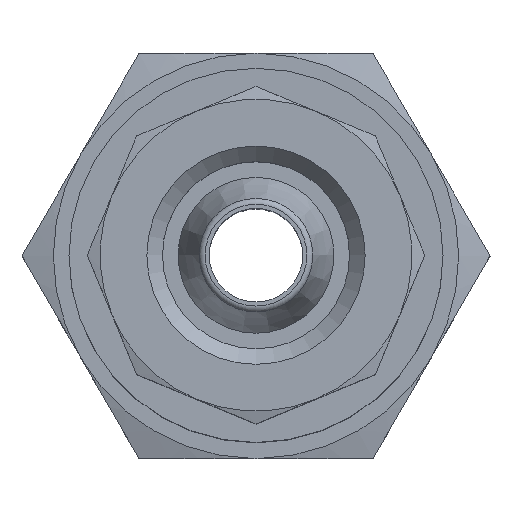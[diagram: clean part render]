
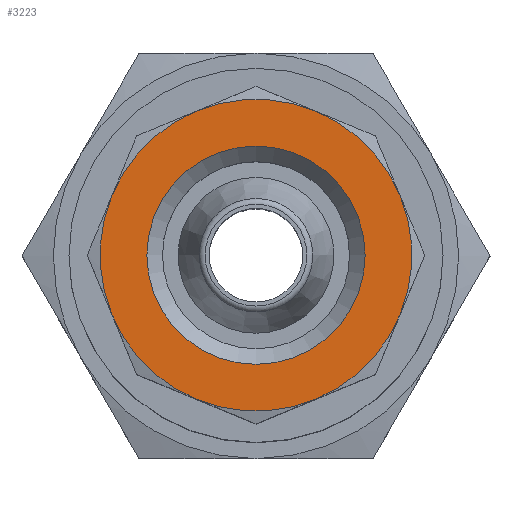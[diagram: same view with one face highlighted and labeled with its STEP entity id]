
A CAD part, top view. The second image highlights one B-rep face of the part: STEP entity #3223.
In plain terms, the highlighted planar face has unit normal (0, 0, 1) as drawn and (0, 1, 0) by its records, which use the part's own axes.
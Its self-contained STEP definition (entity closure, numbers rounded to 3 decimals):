
#1654=ORIENTED_EDGE('',*,*,#1995,.F.);
#1655=ORIENTED_EDGE('',*,*,#1996,.F.);
#1656=ORIENTED_EDGE('',*,*,#1997,.F.);
#1657=ORIENTED_EDGE('',*,*,#1998,.F.);
#1658=ORIENTED_EDGE('',*,*,#1999,.F.);
#1659=ORIENTED_EDGE('',*,*,#2000,.F.);
#1660=ORIENTED_EDGE('',*,*,#2001,.F.);
#1661=ORIENTED_EDGE('',*,*,#2002,.F.);
#1662=ORIENTED_EDGE('',*,*,#1994,.T.);
#1800=CIRCLE('',#3091,3.5);
#1801=CIRCLE('',#3093,5.);
#1802=CIRCLE('',#3094,5.);
#1803=CIRCLE('',#3095,5.);
#1804=CIRCLE('',#3096,5.);
#1805=CIRCLE('',#3097,5.);
#1806=CIRCLE('',#3098,5.);
#1807=CIRCLE('',#3099,5.);
#1808=CIRCLE('',#3100,5.);
#1880=VERTEX_POINT('',#2858);
#1881=VERTEX_POINT('',#2861);
#1882=VERTEX_POINT('',#2862);
#1883=VERTEX_POINT('',#2864);
#1884=VERTEX_POINT('',#2866);
#1885=VERTEX_POINT('',#2868);
#1886=VERTEX_POINT('',#2870);
#1887=VERTEX_POINT('',#2872);
#1888=VERTEX_POINT('',#2874);
#1994=EDGE_CURVE('',#1880,#1880,#1800,.T.);
#1995=EDGE_CURVE('',#1881,#1882,#1801,.T.);
#1996=EDGE_CURVE('',#1883,#1881,#1802,.T.);
#1997=EDGE_CURVE('',#1884,#1883,#1803,.T.);
#1998=EDGE_CURVE('',#1885,#1884,#1804,.T.);
#1999=EDGE_CURVE('',#1886,#1885,#1805,.T.);
#2000=EDGE_CURVE('',#1887,#1886,#1806,.T.);
#2001=EDGE_CURVE('',#1888,#1887,#1807,.T.);
#2002=EDGE_CURVE('',#1882,#1888,#1808,.T.);
#2120=EDGE_LOOP('',(#1654,#1655,#1656,#1657,#1658,#1659,#1660,#1661));
#2121=EDGE_LOOP('',(#1662));
#2230=FACE_BOUND('',#2120,.T.);
#2231=FACE_BOUND('',#2121,.T.);
#2526=DIRECTION('',(0.,-1.,0.));
#2527=DIRECTION('',(0.,0.,-3.5));
#2528=DIRECTION('',(0.,1.,0.));
#2529=DIRECTION('',(1.,0.,0.));
#2530=DIRECTION('',(0.,-1.,0.));
#2531=DIRECTION('',(0.,0.,5.));
#2532=DIRECTION('',(0.,-1.,0.));
#2533=DIRECTION('',(0.,0.,5.));
#2534=DIRECTION('',(0.,-1.,0.));
#2535=DIRECTION('',(0.,0.,5.));
#2536=DIRECTION('',(0.,-1.,0.));
#2537=DIRECTION('',(0.,0.,5.));
#2538=DIRECTION('',(0.,-1.,0.));
#2539=DIRECTION('',(0.,0.,5.));
#2540=DIRECTION('',(0.,-1.,0.));
#2541=DIRECTION('',(0.,0.,5.));
#2542=DIRECTION('',(0.,-1.,0.));
#2543=DIRECTION('',(0.,0.,5.));
#2544=DIRECTION('',(0.,-1.,0.));
#2545=DIRECTION('',(0.,0.,5.));
#2858=CARTESIAN_POINT('',(0.,11.,-3.5));
#2859=CARTESIAN_POINT('',(0.,11.,0.));
#2860=CARTESIAN_POINT('',(1.913,11.,4.619));
#2861=CARTESIAN_POINT('',(-4.619,11.,-1.913));
#2862=CARTESIAN_POINT('',(-1.913,11.,-4.619));
#2863=CARTESIAN_POINT('',(0.,11.,0.));
#2864=CARTESIAN_POINT('',(-4.619,11.,1.913));
#2865=CARTESIAN_POINT('',(0.,11.,0.));
#2866=CARTESIAN_POINT('',(-1.913,11.,4.619));
#2867=CARTESIAN_POINT('',(0.,11.,0.));
#2868=CARTESIAN_POINT('',(1.913,11.,4.619));
#2869=CARTESIAN_POINT('',(0.,11.,0.));
#2870=CARTESIAN_POINT('',(4.619,11.,1.913));
#2871=CARTESIAN_POINT('',(0.,11.,0.));
#2872=CARTESIAN_POINT('',(4.619,11.,-1.913));
#2873=CARTESIAN_POINT('',(0.,11.,0.));
#2874=CARTESIAN_POINT('',(1.913,11.,-4.619));
#2875=CARTESIAN_POINT('',(0.,11.,0.));
#2876=CARTESIAN_POINT('',(0.,11.,0.));
#3091=AXIS2_PLACEMENT_3D('',#2859,#2526,#2527);
#3092=AXIS2_PLACEMENT_3D('',#2860,#2528,#2529);
#3093=AXIS2_PLACEMENT_3D('',#2863,#2530,#2531);
#3094=AXIS2_PLACEMENT_3D('',#2865,#2532,#2533);
#3095=AXIS2_PLACEMENT_3D('',#2867,#2534,#2535);
#3096=AXIS2_PLACEMENT_3D('',#2869,#2536,#2537);
#3097=AXIS2_PLACEMENT_3D('',#2871,#2538,#2539);
#3098=AXIS2_PLACEMENT_3D('',#2873,#2540,#2541);
#3099=AXIS2_PLACEMENT_3D('',#2875,#2542,#2543);
#3100=AXIS2_PLACEMENT_3D('',#2876,#2544,#2545);
#3162=PLANE('',#3092);
#3223=ADVANCED_FACE('',(#2230,#2231),#3162,.T.);
